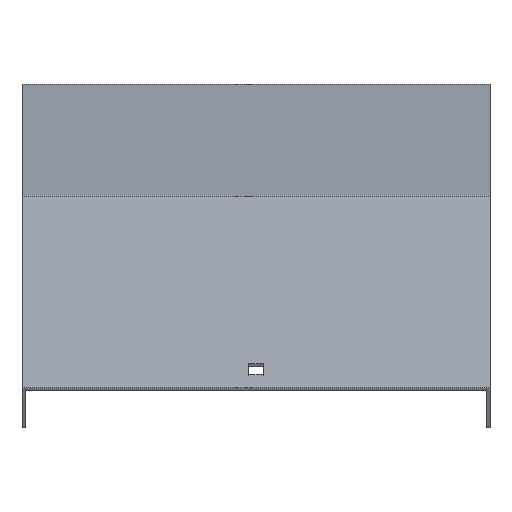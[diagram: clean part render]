
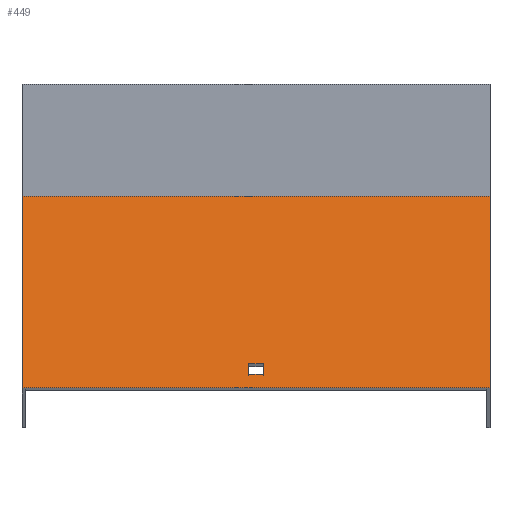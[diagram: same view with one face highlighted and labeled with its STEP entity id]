
A CAD part, top view. The second image highlights one B-rep face of the part: STEP entity #449.
In plain terms, the highlighted planar face has unit normal (0, 0.866, 0.5).
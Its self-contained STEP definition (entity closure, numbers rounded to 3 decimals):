
#9 = LINE ( 'NONE', #594, #687 ) ;
#17 = DIRECTION ( 'NONE',  ( 0., -0.5, 0.866 ) ) ;
#32 = VERTEX_POINT ( 'NONE', #647 ) ;
#34 = DIRECTION ( 'NONE',  ( 1., 0., 0. ) ) ;
#50 = VERTEX_POINT ( 'NONE', #235 ) ;
#103 = VERTEX_POINT ( 'NONE', #704 ) ;
#116 = VERTEX_POINT ( 'NONE', #837 ) ;
#122 = ORIENTED_EDGE ( 'NONE', *, *, #167, .T. ) ;
#130 = VECTOR ( 'NONE', #34, 1000. ) ;
#145 = CARTESIAN_POINT ( 'NONE',  ( -101.5, -28.986, 349.45 ) ) ;
#147 = CARTESIAN_POINT ( 'NONE',  ( 101.5, -112.302, 493.759 ) ) ;
#149 = CARTESIAN_POINT ( 'NONE',  ( 101.5, -28.986, 349.45 ) ) ;
#157 = ORIENTED_EDGE ( 'NONE', *, *, #498, .T. ) ;
#167 = EDGE_CURVE ( 'NONE', #324, #116, #586, .T. ) ;
#169 = CARTESIAN_POINT ( 'NONE',  ( 101.5, -30.302, 351.73 ) ) ;
#185 = ORIENTED_EDGE ( 'NONE', *, *, #195, .T. ) ;
#194 = CARTESIAN_POINT ( 'NONE',  ( 101.5, -106.302, 483.366 ) ) ;
#195 = EDGE_CURVE ( 'NONE', #50, #324, #792, .T. ) ;
#200 = CARTESIAN_POINT ( 'NONE',  ( -101.5, -30.302, 351.73 ) ) ;
#213 = CARTESIAN_POINT ( 'NONE',  ( -3.25, -106.302, 483.366 ) ) ;
#229 = VECTOR ( 'NONE', #402, 1000. ) ;
#235 = CARTESIAN_POINT ( 'NONE',  ( 3.25, -106.302, 483.366 ) ) ;
#290 = CARTESIAN_POINT ( 'NONE',  ( 101.5, -101.802, 475.572 ) ) ;
#292 = LINE ( 'NONE', #149, #546 ) ;
#297 = EDGE_CURVE ( 'NONE', #474, #393, #292, .T. ) ;
#315 = ORIENTED_EDGE ( 'NONE', *, *, #795, .F. ) ;
#324 = VERTEX_POINT ( 'NONE', #213 ) ;
#337 = DIRECTION ( 'NONE',  ( -1., 0., 0. ) ) ;
#340 = VECTOR ( 'NONE', #337, 1000. ) ;
#342 = FACE_BOUND ( 'NONE', #659, .T. ) ;
#347 = DIRECTION ( 'NONE',  ( -1., 0., 0. ) ) ;
#355 = VERTEX_POINT ( 'NONE', #771 ) ;
#366 = LINE ( 'NONE', #290, #130 ) ;
#389 = AXIS2_PLACEMENT_3D ( 'NONE', #169, #816, #427 ) ;
#393 = VERTEX_POINT ( 'NONE', #145 ) ;
#400 = DIRECTION ( 'NONE',  ( 0., -0.5, 0.866 ) ) ;
#402 = DIRECTION ( 'NONE',  ( 0., 0.5, -0.866 ) ) ;
#408 = EDGE_CURVE ( 'NONE', #103, #50, #9, .T. ) ;
#411 = DIRECTION ( 'NONE',  ( -1., 0., 0. ) ) ;
#421 = PLANE ( 'NONE',  #389 ) ;
#423 = VECTOR ( 'NONE', #705, 1000. ) ;
#426 = EDGE_LOOP ( 'NONE', ( #812, #315, #768, #706 ) ) ;
#427 = DIRECTION ( 'NONE',  ( 0., 0.5, -0.866 ) ) ;
#436 = EDGE_CURVE ( 'NONE', #393, #32, #797, .T. ) ;
#449 = ADVANCED_FACE ( 'NONE', ( #342, #749 ), #421, .F. ) ;
#472 = LINE ( 'NONE', #147, #803 ) ;
#474 = VERTEX_POINT ( 'NONE', #825 ) ;
#483 = ORIENTED_EDGE ( 'NONE', *, *, #408, .T. ) ;
#498 = EDGE_CURVE ( 'NONE', #116, #103, #366, .T. ) ;
#526 = CARTESIAN_POINT ( 'NONE',  ( -3.25, -30.302, 351.73 ) ) ;
#546 = VECTOR ( 'NONE', #411, 1000. ) ;
#566 = LINE ( 'NONE', #698, #423 ) ;
#586 = LINE ( 'NONE', #526, #229 ) ;
#594 = CARTESIAN_POINT ( 'NONE',  ( 3.25, -30.302, 351.73 ) ) ;
#622 = EDGE_CURVE ( 'NONE', #474, #355, #566, .T. ) ;
#641 = VECTOR ( 'NONE', #400, 1000. ) ;
#647 = CARTESIAN_POINT ( 'NONE',  ( -101.5, -112.302, 493.759 ) ) ;
#659 = EDGE_LOOP ( 'NONE', ( #157, #483, #185, #122 ) ) ;
#687 = VECTOR ( 'NONE', #17, 1000. ) ;
#698 = CARTESIAN_POINT ( 'NONE',  ( 101.5, -30.302, 351.73 ) ) ;
#704 = CARTESIAN_POINT ( 'NONE',  ( 3.25, -101.802, 475.572 ) ) ;
#705 = DIRECTION ( 'NONE',  ( 0., -0.5, 0.866 ) ) ;
#706 = ORIENTED_EDGE ( 'NONE', *, *, #297, .T. ) ;
#749 = FACE_OUTER_BOUND ( 'NONE', #426, .T. ) ;
#768 = ORIENTED_EDGE ( 'NONE', *, *, #622, .F. ) ;
#771 = CARTESIAN_POINT ( 'NONE',  ( 101.5, -112.302, 493.759 ) ) ;
#792 = LINE ( 'NONE', #194, #340 ) ;
#795 = EDGE_CURVE ( 'NONE', #355, #32, #472, .T. ) ;
#797 = LINE ( 'NONE', #200, #641 ) ;
#803 = VECTOR ( 'NONE', #347, 1000. ) ;
#812 = ORIENTED_EDGE ( 'NONE', *, *, #436, .T. ) ;
#816 = DIRECTION ( 'NONE',  ( 0., -0.866, -0.5 ) ) ;
#825 = CARTESIAN_POINT ( 'NONE',  ( 101.5, -28.986, 349.45 ) ) ;
#837 = CARTESIAN_POINT ( 'NONE',  ( -3.25, -101.802, 475.572 ) ) ;
